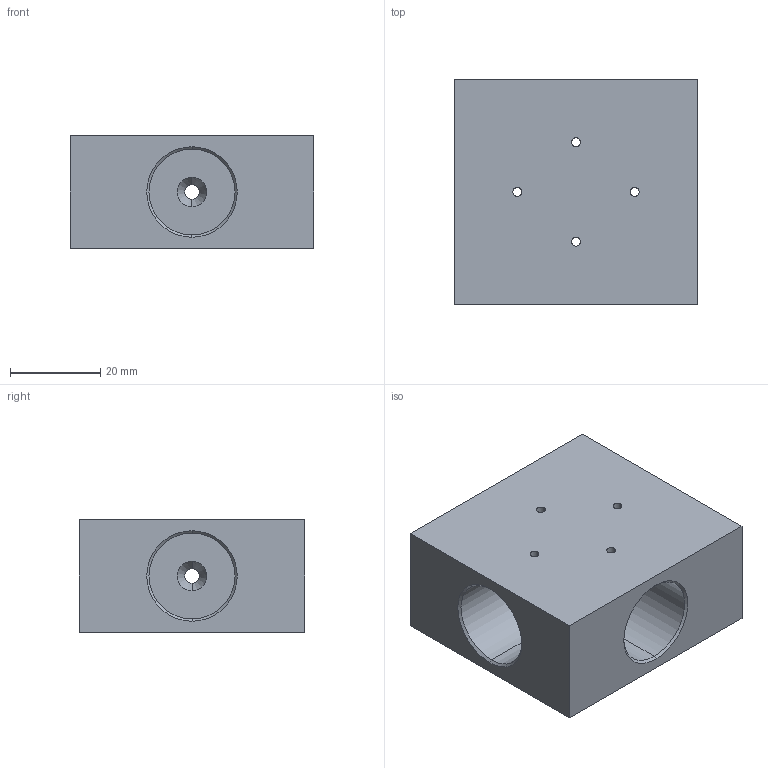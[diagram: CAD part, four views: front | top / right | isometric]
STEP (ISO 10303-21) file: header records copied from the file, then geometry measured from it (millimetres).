
FILE_DESCRIPTION (( 'STEP AP203' ), '1' );
FILE_NAME ('FT60CS06.STEP', '2026-06-26T00:50:45', ( 'USER' ), ( '' ), 'SwSTEP 2.0', 'SolidWorks 2023', '' );
FILE_SCHEMA (( 'CONFIG_CONTROL_DESIGN' ));
Length unit declared in the file: millimetre
Products named in the file (1): FT60CS06
Bounding box: 54 x 50 x 25 mm (x, y, z)
Volume: 48716.8 mm3; surface area: 14777.2 mm2
Topology: 1 solids, 1 shells, 58 faces, 152 edges, 90 vertices
Faces by surface type: cylinder 32, cone 16, plane 10
Entity records: 2097 total; most frequent: CARTESIAN_POINT 577, ORIENTED_EDGE 304, DIRECTION 298, EDGE_CURVE 152, AXIS2_PLACEMENT_3D 115, VERTEX_POINT 90, EDGE_LOOP 74, LINE 68
